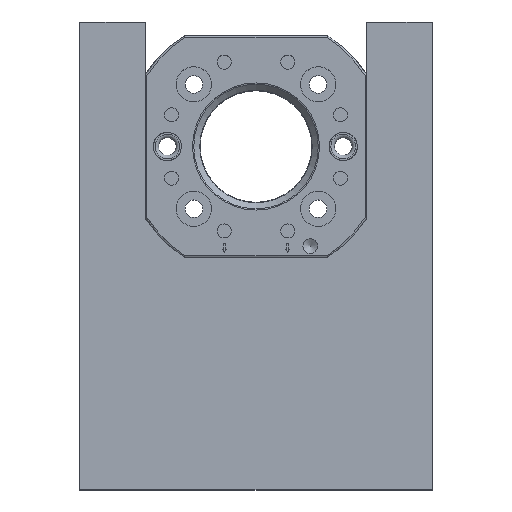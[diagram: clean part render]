
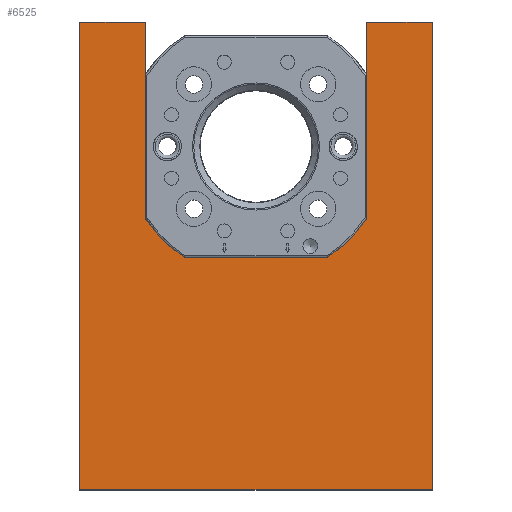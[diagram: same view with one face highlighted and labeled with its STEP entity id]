
A CAD part, top view. The second image highlights one B-rep face of the part: STEP entity #6525.
In plain terms, the highlighted planar face has unit normal (0, 0, 1).
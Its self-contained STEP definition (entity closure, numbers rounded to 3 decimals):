
#832=LINE('',#13618,#1236);
#836=LINE('',#13630,#1240);
#840=LINE('',#13642,#1244);
#843=LINE('',#13648,#1247);
#846=LINE('',#13654,#1250);
#849=LINE('',#13660,#1253);
#852=LINE('',#13666,#1256);
#855=LINE('',#13670,#1259);
#1236=VECTOR('',#8751,10.);
#1240=VECTOR('',#8763,10.);
#1244=VECTOR('',#8775,10.);
#1247=VECTOR('',#8780,10.);
#1250=VECTOR('',#8785,10.);
#1253=VECTOR('',#8790,10.);
#1256=VECTOR('',#8795,10.);
#1259=VECTOR('',#8800,10.);
#1953=FACE_OUTER_BOUND('',#2373,.T.);
#2373=EDGE_LOOP('',(#6022,#6023,#6024,#6025,#6026,#6027,#6028,#6029,#6030,
#6031));
#2695=CIRCLE('',#7160,37.5);
#2697=CIRCLE('',#7164,37.5);
#3308=VERTEX_POINT('',#13615);
#3309=VERTEX_POINT('',#13617);
#3311=VERTEX_POINT('',#13623);
#3313=VERTEX_POINT('',#13629);
#3315=VERTEX_POINT('',#13635);
#3317=VERTEX_POINT('',#13641);
#3319=VERTEX_POINT('',#13647);
#3321=VERTEX_POINT('',#13653);
#3323=VERTEX_POINT('',#13659);
#3325=VERTEX_POINT('',#13665);
#4200=EDGE_CURVE('',#3309,#3308,#832,.T.);
#4203=EDGE_CURVE('',#3311,#3309,#2695,.T.);
#4206=EDGE_CURVE('',#3313,#3311,#836,.T.);
#4209=EDGE_CURVE('',#3315,#3313,#2697,.T.);
#4212=EDGE_CURVE('',#3317,#3315,#840,.T.);
#4215=EDGE_CURVE('',#3319,#3317,#843,.T.);
#4218=EDGE_CURVE('',#3321,#3319,#846,.T.);
#4221=EDGE_CURVE('',#3323,#3321,#849,.T.);
#4224=EDGE_CURVE('',#3325,#3323,#852,.T.);
#4227=EDGE_CURVE('',#3308,#3325,#855,.T.);
#6022=ORIENTED_EDGE('',*,*,#4227,.T.);
#6023=ORIENTED_EDGE('',*,*,#4224,.T.);
#6024=ORIENTED_EDGE('',*,*,#4221,.T.);
#6025=ORIENTED_EDGE('',*,*,#4218,.T.);
#6026=ORIENTED_EDGE('',*,*,#4215,.T.);
#6027=ORIENTED_EDGE('',*,*,#4212,.T.);
#6028=ORIENTED_EDGE('',*,*,#4209,.T.);
#6029=ORIENTED_EDGE('',*,*,#4206,.T.);
#6030=ORIENTED_EDGE('',*,*,#4203,.T.);
#6031=ORIENTED_EDGE('',*,*,#4200,.T.);
#6171=PLANE('',#7172);
#6525=ADVANCED_FACE('',(#1953),#6171,.F.);
#7160=AXIS2_PLACEMENT_3D('',#13624,#8757,#8758);
#7164=AXIS2_PLACEMENT_3D('',#13636,#8769,#8770);
#7172=AXIS2_PLACEMENT_3D('',#13672,#8803,#8804);
#8751=DIRECTION('',(0.,1.,0.));
#8757=DIRECTION('center_axis',(0.,0.,
-1.));
#8758=DIRECTION('ref_axis',(0.543,0.84,0.));
#8763=DIRECTION('',(-1.,0.,0.));
#8769=DIRECTION('center_axis',(0.,0.,
-1.));
#8770=DIRECTION('ref_axis',(-0.84,0.543,0.));
#8775=DIRECTION('',(0.,-1.,0.));
#8780=DIRECTION('',(-1.,0.,0.));
#8785=DIRECTION('',(0.,1.,0.));
#8790=DIRECTION('',(1.,0.,0.));
#8795=DIRECTION('',(0.,-1.,0.));
#8800=DIRECTION('',(-1.,0.,0.));
#8803=DIRECTION('center_axis',(0.,0.,
-1.));
#8804=DIRECTION('ref_axis',(1.,0.,0.));
#13615=CARTESIAN_POINT('',(-31.5,35.394,0.));
#13617=CARTESIAN_POINT('',(-31.5,-20.347,0.));
#13618=CARTESIAN_POINT('',(-31.5,35.394,0.));
#13623=CARTESIAN_POINT('',(-20.347,-31.5,0.));
#13624=CARTESIAN_POINT('Origin',(0.,0.,
0.));
#13629=CARTESIAN_POINT('',(20.347,-31.5,0.));
#13630=CARTESIAN_POINT('',(-20.347,-31.5,0.));
#13635=CARTESIAN_POINT('',(31.5,-20.347,0.));
#13636=CARTESIAN_POINT('Origin',(0.,0.,
0.));
#13641=CARTESIAN_POINT('',(31.5,35.394,0.));
#13642=CARTESIAN_POINT('',(31.5,20.347,0.));
#13647=CARTESIAN_POINT('',(50.061,35.394,0.));
#13648=CARTESIAN_POINT('',(31.5,35.394,0.));
#13653=CARTESIAN_POINT('',(50.061,-97.606,0.));
#13654=CARTESIAN_POINT('',(50.061,35.394,0.));
#13659=CARTESIAN_POINT('',(-50.061,-97.606,0.));
#13660=CARTESIAN_POINT('',(50.061,-97.606,0.));
#13665=CARTESIAN_POINT('',(-50.061,35.394,0.));
#13666=CARTESIAN_POINT('',(-50.061,-97.606,0.));
#13670=CARTESIAN_POINT('',(-50.061,35.394,0.));
#13672=CARTESIAN_POINT('Origin',(0.,-30.735,
0.));
